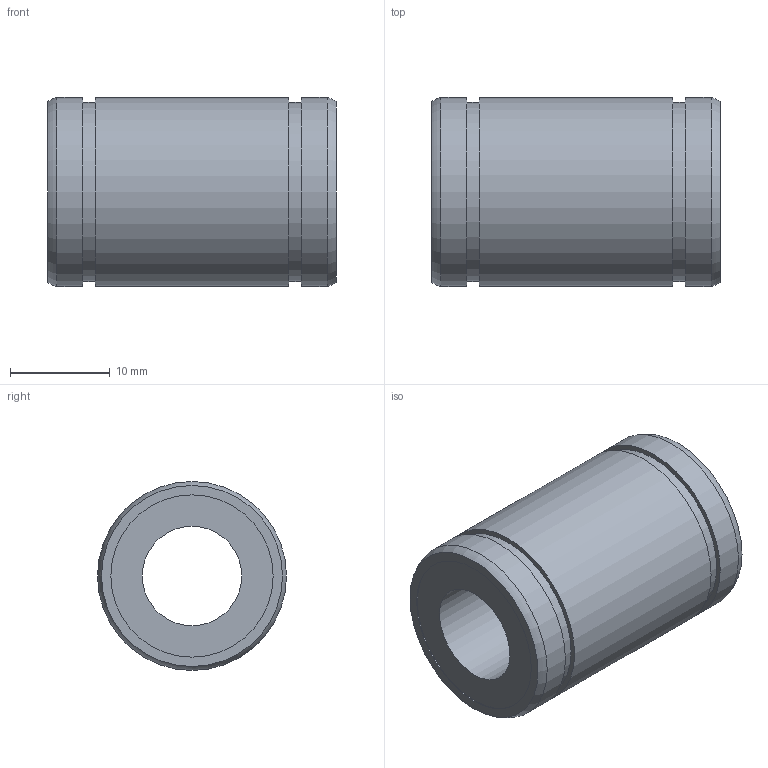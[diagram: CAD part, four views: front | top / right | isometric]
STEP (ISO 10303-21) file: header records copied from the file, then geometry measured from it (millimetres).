
FILE_DESCRIPTION((''),'2;1');
FILE_NAME('D:\製品 (図面)\カタログ用3D\リニアベアリング関連\STEP形式\L\L10.stp','2010-06-02T17:31:44',('Tsuchiya'),(''),'Autodesk Inventor 10','Autodesk Inventor 10','');
FILE_SCHEMA(('AUTOMOTIVE_DESIGN { 1 0 10303 214 1 1 1 1 }'));
Length unit declared in the file: millimetre
Products named in the file (1): L10
Bounding box: 29 x 19 x 19 mm (x, y, z)
Volume: 5824 mm3; surface area: 3125.1 mm2
Topology: 1 solids, 1 shells, 18 faces, 28 edges, 18 vertices
Faces by surface type: cylinder 8, plane 8, torus 2
Full cylindrical faces by diameter (mm): 10 x1, 16.3 x2, 18 x2, 19 x3
Entity records: 391 total; most frequent: DIRECTION 74, CARTESIAN_POINT 55, AXIS2_PLACEMENT_3D 37, ORIENTED_EDGE 36, EDGE_LOOP 36, VERTEX_POINT 18, CIRCLE 18, EDGE_CURVE 18
